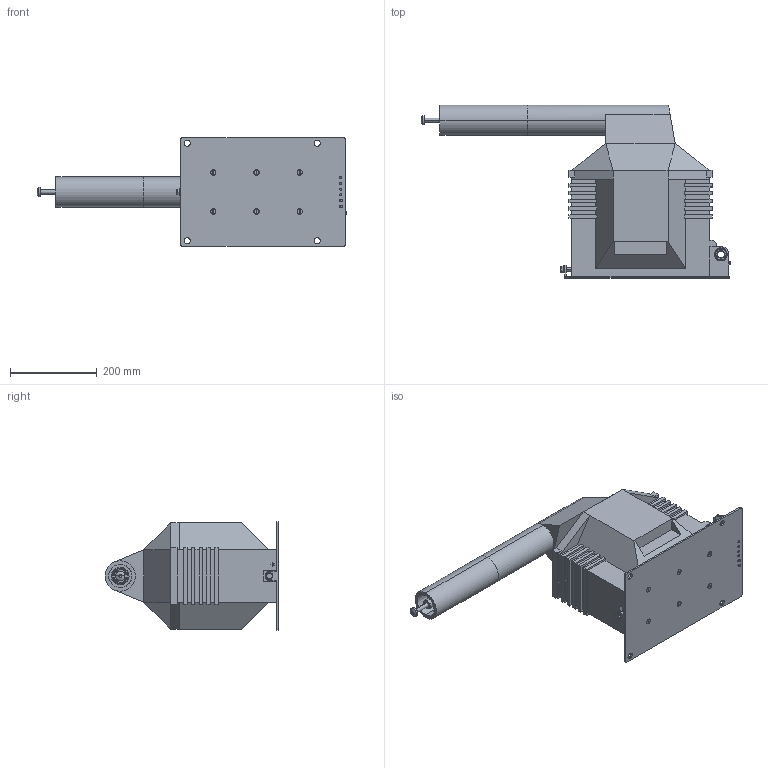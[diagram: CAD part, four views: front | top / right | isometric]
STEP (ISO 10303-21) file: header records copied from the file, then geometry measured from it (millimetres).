
FILE_DESCRIPTION (( 'STEP AP203' ), '1' );
FILE_NAME ('VTS_36_P_12.STEP', '2014-10-14T07:00:04', ( '' ), ( '' ), 'SwSTEP 2.0', 'SolidWorks 2014', '' );
FILE_SCHEMA (( 'CONFIG_CONTROL_DESIGN' ));
Length unit declared in the file: millimetre
Products named in the file (1): VTS_36_P_12
Bounding box: 714.32 x 400.9 x 250 mm (x, y, z)
Volume: 18580117.7 mm3; surface area: 895363.9 mm2
Topology: 13 solids, 15 shells, 1568 faces, 4020 edges, 2533 vertices
Faces by surface type: plane 880, cylinder 450, bspline 82, cone 61, sphere 48, torus 47
Entity records: 55464 total; most frequent: CARTESIAN_POINT 17574, ORIENTED_EDGE 7900, DIRECTION 7771, EDGE_CURVE 3950, AXIS2_PLACEMENT_3D 2655, VERTEX_POINT 2517, VECTOR 2461, LINE 2461
